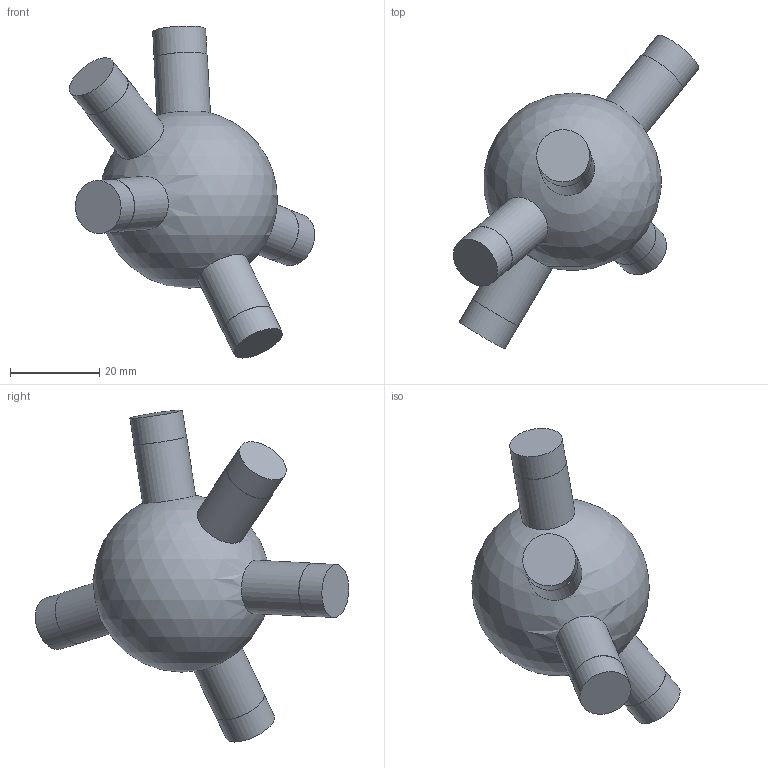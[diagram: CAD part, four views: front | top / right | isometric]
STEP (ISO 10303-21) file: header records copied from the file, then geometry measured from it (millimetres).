
FILE_DESCRIPTION(('Open CASCADE Model'),'2;1');
FILE_NAME('Open CASCADE Shape Model','2026-10-21T12:47:57',('Author'),( 'Open CASCADE'),'Open CASCADE STEP processor 7.9','Open CASCADE 7.9' ,'Unknown');
FILE_SCHEMA(('AUTOMOTIVE_DESIGN { 1 0 10303 214 1 1 1 1 }'));
Length unit declared in the file: millimetre
Products named in the file (1): Open CASCADE STEP translator 7.9 52
Bounding box: 55.15 x 70.42 x 74.58 mm (x, y, z)
Volume: 44527.9 mm3; surface area: 8782.6 mm2
Topology: 1 solids, 1 shells, 21 faces, 33 edges, 22 vertices
Faces by surface type: cylinder 10, plane 10, sphere 1
Full cylindrical faces by diameter (mm): 11.9 x5, 12 x5
Entity records: 1226 total; most frequent: CARTESIAN_POINT 468, DIRECTION 156, ORIENTED_EDGE 64, PCURVE 64, DEFINITIONAL_REPRESENTATION 64, LINE 53, VECTOR 53, AXIS2_PLACEMENT_3D 44
